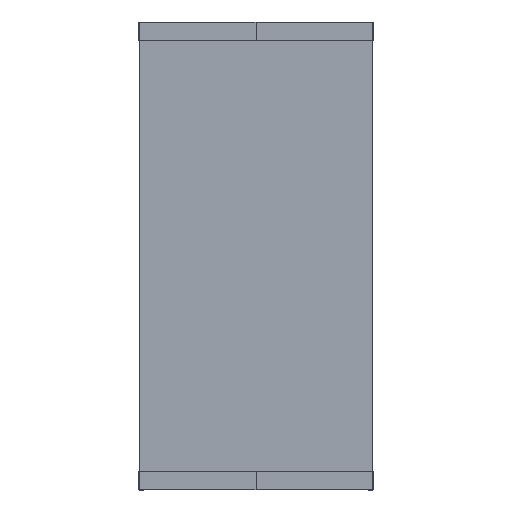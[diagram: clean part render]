
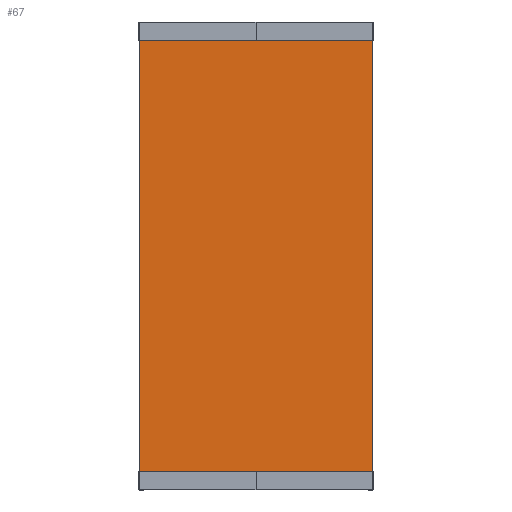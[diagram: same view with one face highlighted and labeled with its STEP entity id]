
A CAD part, top view. The second image highlights one B-rep face of the part: STEP entity #67.
In plain terms, the highlighted planar face has unit normal (0, 0, 1).
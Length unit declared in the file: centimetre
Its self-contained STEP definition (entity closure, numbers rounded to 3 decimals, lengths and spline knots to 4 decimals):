
#67=ADVANCED_FACE($,(#233),#1963,.T.);
#233=FACE_OUTER_BOUND($,#399,.T.);
#399=EDGE_LOOP($,(#634,#635,#636,#637));
#634=ORIENTED_EDGE($,*,*,#1351,.F.);
#635=ORIENTED_EDGE($,*,*,#1350,.F.);
#636=ORIENTED_EDGE($,*,*,#1349,.F.);
#637=ORIENTED_EDGE($,*,*,#1348,.F.);
#1348=EDGE_CURVE($,#1718,#1719,#2144,.T.);
#1349=EDGE_CURVE($,#1719,#1720,#2145,.T.);
#1350=EDGE_CURVE($,#1720,#1721,#2146,.T.);
#1351=EDGE_CURVE($,#1721,#1718,#2147,.T.);
#1718=VERTEX_POINT($,#3044);
#1719=VERTEX_POINT($,#3045);
#1720=VERTEX_POINT($,#3046);
#1721=VERTEX_POINT($,#3047);
#1963=PLANE($,#2597);
#2144=B_SPLINE_CURVE_WITH_KNOTS($,1,(#3018,#3019),.UNSPECIFIED.,.F.,.F.,
(2,2),(0.,166.),.UNSPECIFIED.);
#2145=B_SPLINE_CURVE_WITH_KNOTS($,1,(#3020,#3021),.UNSPECIFIED.,.F.,.F.,
(2,2),(0.,89.9),.UNSPECIFIED.);
#2146=B_SPLINE_CURVE_WITH_KNOTS($,1,(#3022,#3023),.UNSPECIFIED.,.F.,.F.,
(2,2),(0.,166.),.UNSPECIFIED.);
#2147=B_SPLINE_CURVE_WITH_KNOTS($,1,(#3024,#3025),.UNSPECIFIED.,.F.,.F.,
(2,2),(0.,89.9),.UNSPECIFIED.);
#2597=AXIS2_PLACEMENT_3D($,#3039,#2766,$);
#2766=DIRECTION($,(0.,0.,1.));
#3018=CARTESIAN_POINT($,(-182.95,-62.,74.51));
#3019=CARTESIAN_POINT($,(-182.95,104.,74.51));
#3020=CARTESIAN_POINT($,(-182.95,104.,74.51));
#3021=CARTESIAN_POINT($,(-93.05,104.,74.51));
#3022=CARTESIAN_POINT($,(-93.05,104.,74.51));
#3023=CARTESIAN_POINT($,(-93.05,-62.,74.51));
#3024=CARTESIAN_POINT($,(-93.05,-62.,74.51));
#3025=CARTESIAN_POINT($,(-182.95,-62.,74.51));
#3039=CARTESIAN_POINT($,(-182.95,-62.,74.51));
#3044=CARTESIAN_POINT($,(-182.95,-62.,74.51));
#3045=CARTESIAN_POINT($,(-182.95,104.,74.51));
#3046=CARTESIAN_POINT($,(-93.05,104.,74.51));
#3047=CARTESIAN_POINT($,(-93.05,-62.,74.51));
